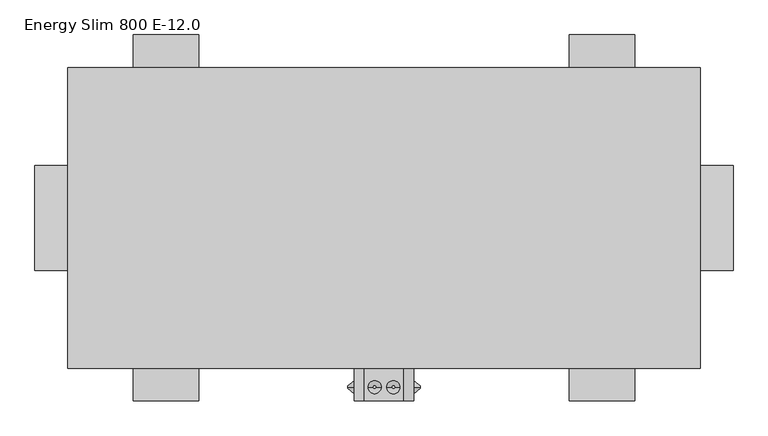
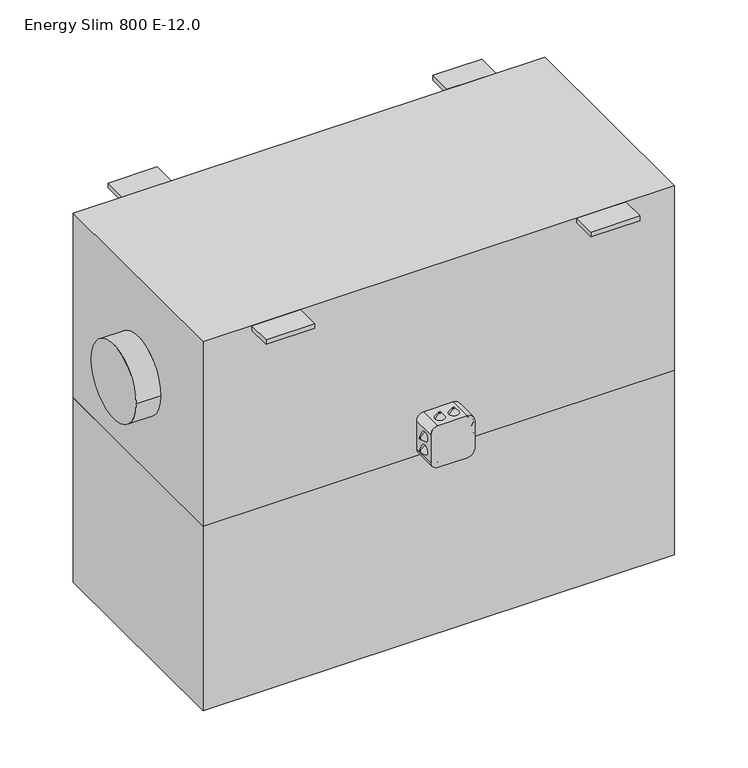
"""IFC4 building model written with IfcOpenShell, lengths in millimetres: proxy geometry, ADSK_КПВУ_ENERGY SLIM E_круглая : Energy Slim 800 E-12.0."""

from ifc_helpers import new_model, si_unit, point, frame, frame_2d, origin, place, context, project, spatial, polyline, circle_curve, trimmed, segment, composite_curve, outline, extrude, source, transform, mapped, element, save
from ifc_brep_helpers import plane_surface, cylinder_surface, revolved_surface, advanced_brep


def energy_slim_800_e_12_0_e377578b(model_context):
    return source(origin(), model_context, "Body", "SolidModel", [
        advanced_brep(
        [(211.0, -258.4311792, -171.2092609), (211.0, -258.4311792, -167.2092609), (221.0, -258.4311792, -179.2092609), (221.0, -258.4311792, -159.2092609)],
        [
            (0, 1, circle_curve(frame((211.0, -258.4311792, -169.2092609), z_axis=(-1.0, 0.0, 0.0), x_axis=(0.0, 0.0, -1.0)), 2.0)),
            (1, 0, circle_curve(frame((211.0, -258.4311792, -169.2092609), z_axis=(-1.0, 0.0, 0.0), x_axis=(0.0, 0.0, 1.0)), 2.0)),
            (2, 3, circle_curve(frame((221.0, -258.4311792, -169.2092609), z_axis=(1.0, 0.0, 0.0), x_axis=(0.0, 0.0, 1.0)), 10.0)),
            (3, 2, circle_curve(frame((221.0, -258.4311792, -169.2092609), z_axis=(1.0, 0.0, 0.0), x_axis=(0.0, 0.0, -1.0)), 10.0)),
            (2, 0),
            (1, 3),
        ],
        [
            plane_surface(frame((211.0, -258.4311792, -169.2092609), z_axis=(-1.0, 0.0, 0.0), x_axis=(0.0, -1.0, 0.0))),
            plane_surface(frame((221.0, -258.4311792, -169.2092609), z_axis=(1.0, 0.0, 0.0), x_axis=(0.0, -1.0, 0.0))),
            revolved_surface(polyline([(211.0, -258.4311792, -167.2092609), (221.0, -258.4311792, -159.2092609)]), (208.5, -258.4311792, -169.2092609), (1.0, 0.0, 0.0)),
            revolved_surface(polyline([(211.0, -258.4311792, -171.2092609), (221.0, -258.4311792, -179.2092609)]), (208.5, -258.4311792, -169.2092609), (1.0, 0.0, 0.0)),
        ],
        [
            (0, [[1, 2]]),
            (1, [[3, 4]]),
            (2, [[-3, 5, -2, 6]]),
            (3, [[-4, -6, -1, -5]]),
        ],
    ),
        advanced_brep(
        [(211.0, -258.4311792, -138.5531164), (211.0, -258.4311792, -142.5531164), (221.0, -258.4311792, -130.5531164), (221.0, -258.4311792, -150.5531164)],
        [
            (0, 1, circle_curve(frame((211.0, -258.4311792, -140.5531164), z_axis=(-1.0, 0.0, 0.0), x_axis=(0.0, 0.0, 1.0)), 2.0)),
            (1, 0, circle_curve(frame((211.0, -258.4311792, -140.5531164), z_axis=(-1.0, 0.0, 0.0), x_axis=(0.0, 0.0, -1.0)), 2.0)),
            (2, 3, circle_curve(frame((221.0, -258.4311792, -140.5531164), z_axis=(1.0, 0.0, 0.0), x_axis=(0.0, 0.0, -1.0)), 10.0)),
            (3, 2, circle_curve(frame((221.0, -258.4311792, -140.5531164), z_axis=(1.0, 0.0, 0.0), x_axis=(0.0, 0.0, 1.0)), 10.0)),
            (3, 1),
            (0, 2),
        ],
        [
            plane_surface(frame((211.0, -258.4311792, -140.5531164), z_axis=(-1.0, 0.0, 0.0), x_axis=(0.0, 1.0, 0.0))),
            plane_surface(frame((221.0, -258.4311792, -140.5531164), z_axis=(1.0, 0.0, 0.0), x_axis=(0.0, 1.0, 0.0))),
            revolved_surface(polyline([(211.0, -258.4311792, -138.5531164), (221.0, -258.4311792, -130.5531164)]), (208.5, -258.4311792, -140.5531164), (1.0, 0.0, 0.0)),
            revolved_surface(polyline([(211.0, -258.4311792, -142.5531164), (221.0, -258.4311792, -150.5531164)]), (208.5, -258.4311792, -140.5531164), (1.0, 0.0, 0.0)),
        ],
        [
            (0, [[1, 2]]),
            (1, [[3, 4]]),
            (2, [[-4, 5, -1, 6]]),
            (3, [[-3, -6, -2, -5]]),
        ],
    ),
        advanced_brep(
        [(321.0, -258.4311792, -171.2092609), (321.0, -258.4311792, -167.2092609), (311.0, -258.4311792, -179.2092609), (311.0, -258.4311792, -159.2092609)],
        [
            (0, 1, circle_curve(frame((321.0, -258.4311792, -169.2092609), z_axis=(1.0, 0.0, 0.0), x_axis=(0.0, 0.0, -1.0)), 2.0)),
            (1, 0, circle_curve(frame((321.0, -258.4311792, -169.2092609), z_axis=(1.0, 0.0, 0.0), x_axis=(0.0, 0.0, 1.0)), 2.0)),
            (2, 3, circle_curve(frame((311.0, -258.4311792, -169.2092609), z_axis=(-1.0, 0.0, 0.0), x_axis=(0.0, 0.0, 1.0)), 10.0)),
            (3, 2, circle_curve(frame((311.0, -258.4311792, -169.2092609), z_axis=(-1.0, 0.0, 0.0), x_axis=(0.0, 0.0, -1.0)), 10.0)),
            (3, 1),
            (0, 2),
        ],
        [
            plane_surface(frame((321.0, -258.4311792, -169.2092609), z_axis=(1.0, 0.0, 0.0), x_axis=(0.0, 1.0, 0.0))),
            plane_surface(frame((311.0, -258.4311792, -169.2092609), z_axis=(-1.0, 0.0, 0.0), x_axis=(0.0, 1.0, 0.0))),
            revolved_surface(polyline([(321.0, -258.4311792, -171.2092609), (311.0, -258.4311792, -179.2092609)]), (323.5, -258.4311792, -169.2092609), (-1.0, 0.0, 0.0)),
            revolved_surface(polyline([(321.0, -258.4311792, -167.2092609), (311.0, -258.4311792, -159.2092609)]), (323.5, -258.4311792, -169.2092609), (-1.0, 0.0, 0.0)),
        ],
        [
            (0, [[1, 2]]),
            (1, [[3, 4]]),
            (2, [[-4, 5, -1, 6]]),
            (3, [[-3, -6, -2, -5]]),
        ],
    ),
        advanced_brep(
        [(321.0, -258.4311792, -138.5531164), (321.0, -258.4311792, -142.5531164), (311.0, -258.4311792, -130.5531164), (311.0, -258.4311792, -150.5531164)],
        [
            (0, 1, circle_curve(frame((321.0, -258.4311792, -140.5531164), z_axis=(1.0, 0.0, 0.0), x_axis=(0.0, 0.0, 1.0)), 2.0)),
            (1, 0, circle_curve(frame((321.0, -258.4311792, -140.5531164), z_axis=(1.0, 0.0, 0.0), x_axis=(0.0, 0.0, -1.0)), 2.0)),
            (2, 3, circle_curve(frame((311.0, -258.4311792, -140.5531164), z_axis=(-1.0, 0.0, 0.0), x_axis=(0.0, 0.0, -1.0)), 10.0)),
            (3, 2, circle_curve(frame((311.0, -258.4311792, -140.5531164), z_axis=(-1.0, 0.0, 0.0), x_axis=(0.0, 0.0, 1.0)), 10.0)),
            (2, 0),
            (1, 3),
        ],
        [
            plane_surface(frame((321.0, -258.4311792, -140.5531164), z_axis=(1.0, 0.0, 0.0), x_axis=(0.0, -1.0, 0.0))),
            plane_surface(frame((311.0, -258.4311792, -140.5531164), z_axis=(-1.0, 0.0, 0.0), x_axis=(0.0, -1.0, 0.0))),
            revolved_surface(polyline([(321.0, -258.4311792, -142.5531164), (311.0, -258.4311792, -150.5531164)]), (323.5, -258.4311792, -140.5531164), (-1.0, 0.0, 0.0)),
            revolved_surface(polyline([(321.0, -258.4311792, -138.5531164), (311.0, -258.4311792, -130.5531164)]), (323.5, -258.4311792, -140.5531164), (-1.0, 0.0, 0.0)),
        ],
        [
            (0, [[1, 2]]),
            (1, [[3, 4]]),
            (2, [[-3, 5, -2, 6]]),
            (3, [[-4, -6, -1, -5]]),
        ],
    ),
        advanced_brep(
        [(249.6719278, -258.4311792, -209.5), (253.6719278, -258.4311792, -209.5), (241.6719278, -258.4311792, -199.5), (261.6719278, -258.4311792, -199.5)],
        [
            (0, 1, circle_curve(frame((251.6719278, -258.4311792, -209.5), z_axis=(0.0, 0.0, -1.0), x_axis=(-1.0, 0.0, 0.0)), 2.0)),
            (1, 0, circle_curve(frame((251.6719278, -258.4311792, -209.5), z_axis=(0.0, 0.0, -1.0), x_axis=(1.0, 0.0, 0.0)), 2.0)),
            (2, 3, circle_curve(frame((251.6719278, -258.4311792, -199.5), z_axis=(0.0, 0.0, 1.0), x_axis=(1.0, 0.0, 0.0)), 10.0)),
            (3, 2, circle_curve(frame((251.6719278, -258.4311792, -199.5), z_axis=(0.0, 0.0, 1.0), x_axis=(-1.0, 0.0, 0.0)), 10.0)),
            (3, 1),
            (0, 2),
        ],
        [
            plane_surface(frame((251.6719278, -258.4311792, -209.5), z_axis=(0.0, 0.0, -1.0), x_axis=(0.0, 1.0, 0.0))),
            plane_surface(frame((251.6719278, -258.4311792, -199.5), z_axis=(0.0, 0.0, 1.0), x_axis=(0.0, 1.0, 0.0))),
            revolved_surface(polyline([(249.6719278, -258.4311792, -209.5), (241.6719278, -258.4311792, -199.5)]), (251.6719278, -258.4311792, -212.0), (0.0, 0.0, 1.0)),
            revolved_surface(polyline([(253.6719278, -258.4311792, -209.5), (261.6719278, -258.4311792, -199.5)]), (251.6719278, -258.4311792, -212.0), (0.0, 0.0, 1.0)),
        ],
        [
            (0, [[1, 2]]),
            (1, [[3, 4]]),
            (2, [[-4, 5, -1, 6]]),
            (3, [[-3, -6, -2, -5]]),
        ],
    ),
        advanced_brep(
        [(282.3280722, -258.4311792, -209.5), (278.3280722, -258.4311792, -209.5), (290.3280722, -258.4311792, -199.5), (270.3280722, -258.4311792, -199.5)],
        [
            (0, 1, circle_curve(frame((280.3280722, -258.4311792, -209.5), z_axis=(0.0, 0.0, -1.0), x_axis=(1.0, 0.0, 0.0)), 2.0)),
            (1, 0, circle_curve(frame((280.3280722, -258.4311792, -209.5), z_axis=(0.0, 0.0, -1.0), x_axis=(-1.0, 0.0, 0.0)), 2.0)),
            (2, 3, circle_curve(frame((280.3280722, -258.4311792, -199.5), z_axis=(0.0, 0.0, 1.0), x_axis=(-1.0, 0.0, 0.0)), 10.0)),
            (3, 2, circle_curve(frame((280.3280722, -258.4311792, -199.5), z_axis=(0.0, 0.0, 1.0), x_axis=(1.0, 0.0, 0.0)), 10.0)),
            (2, 0),
            (1, 3),
        ],
        [
            plane_surface(frame((280.3280722, -258.4311792, -209.5), z_axis=(0.0, 0.0, -1.0), x_axis=(0.0, -1.0, 0.0))),
            plane_surface(frame((280.3280722, -258.4311792, -199.5), z_axis=(0.0, 0.0, 1.0), x_axis=(0.0, -1.0, 0.0))),
            revolved_surface(polyline([(278.3280722, -258.4311792, -209.5), (270.3280722, -258.4311792, -199.5)]), (280.3280722, -258.4311792, -212.0), (0.0, 0.0, 1.0)),
            revolved_surface(polyline([(282.3280722, -258.4311792, -209.5), (290.3280722, -258.4311792, -199.5)]), (280.3280722, -258.4311792, -212.0), (0.0, 0.0, 1.0)),
        ],
        [
            (0, [[1, 2]]),
            (1, [[3, 4]]),
            (2, [[-3, 5, -2, 6]]),
            (3, [[-4, -6, -1, -5]]),
        ],
    ),
        advanced_brep(
        [(249.6719278, -258.4311792, -99.5), (253.6719278, -258.4311792, -99.5), (241.6719278, -258.4311792, -109.5), (261.6719278, -258.4311792, -109.5)],
        [
            (0, 1, circle_curve(frame((251.6719278, -258.4311792, -99.5), z_axis=(0.0, 0.0, 1.0), x_axis=(-1.0, 0.0, 0.0)), 2.0)),
            (1, 0, circle_curve(frame((251.6719278, -258.4311792, -99.5), z_axis=(0.0, 0.0, 1.0), x_axis=(1.0, 0.0, 0.0)), 2.0)),
            (2, 3, circle_curve(frame((251.6719278, -258.4311792, -109.5), z_axis=(0.0, 0.0, -1.0), x_axis=(1.0, 0.0, 0.0)), 10.0)),
            (3, 2, circle_curve(frame((251.6719278, -258.4311792, -109.5), z_axis=(0.0, 0.0, -1.0), x_axis=(-1.0, 0.0, 0.0)), 10.0)),
            (2, 0),
            (1, 3),
        ],
        [
            plane_surface(frame((251.6719278, -258.4311792, -99.5), z_axis=(0.0, 0.0, 1.0), x_axis=(0.0, -1.0, 0.0))),
            plane_surface(frame((251.6719278, -258.4311792, -109.5), z_axis=(0.0, 0.0, -1.0), x_axis=(0.0, -1.0, 0.0))),
            revolved_surface(polyline([(253.6719278, -258.4311792, -99.5), (261.6719278, -258.4311792, -109.5)]), (251.6719278, -258.4311792, -97.0), (0.0, 0.0, -1.0)),
            revolved_surface(polyline([(249.6719278, -258.4311792, -99.5), (241.6719278, -258.4311792, -109.5)]), (251.6719278, -258.4311792, -97.0), (0.0, 0.0, -1.0)),
        ],
        [
            (0, [[1, 2]]),
            (1, [[3, 4]]),
            (2, [[-3, 5, -2, 6]]),
            (3, [[-4, -6, -1, -5]]),
        ],
    ),
        advanced_brep(
        [(282.3280722, -258.4311792, -99.5), (278.3280722, -258.4311792, -99.5), (290.3280722, -258.4311792, -109.5), (270.3280722, -258.4311792, -109.5)],
        [
            (0, 1, circle_curve(frame((280.3280722, -258.4311792, -99.5), z_axis=(0.0, 0.0, 1.0), x_axis=(1.0, 0.0, 0.0)), 2.0)),
            (1, 0, circle_curve(frame((280.3280722, -258.4311792, -99.5), z_axis=(0.0, 0.0, 1.0), x_axis=(-1.0, 0.0, 0.0)), 2.0)),
            (2, 3, circle_curve(frame((280.3280722, -258.4311792, -109.5), z_axis=(0.0, 0.0, -1.0), x_axis=(-1.0, 0.0, 0.0)), 10.0)),
            (3, 2, circle_curve(frame((280.3280722, -258.4311792, -109.5), z_axis=(0.0, 0.0, -1.0), x_axis=(1.0, 0.0, 0.0)), 10.0)),
            (3, 1),
            (0, 2),
        ],
        [
            plane_surface(frame((280.3280722, -258.4311792, -99.5), z_axis=(0.0, 0.0, 1.0), x_axis=(0.0, 1.0, 0.0))),
            plane_surface(frame((280.3280722, -258.4311792, -109.5), z_axis=(0.0, 0.0, -1.0), x_axis=(0.0, 1.0, 0.0))),
            revolved_surface(polyline([(282.3280722, -258.4311792, -99.5), (290.3280722, -258.4311792, -109.5)]), (280.3280722, -258.4311792, -97.0), (0.0, 0.0, -1.0)),
            revolved_surface(polyline([(278.3280722, -258.4311792, -99.5), (270.3280722, -258.4311792, -109.5)]), (280.3280722, -258.4311792, -97.0), (0.0, 0.0, -1.0)),
        ],
        [
            (0, [[1, 2]]),
            (1, [[3, 4]]),
            (2, [[-4, 5, -1, 6]]),
            (3, [[-3, -6, -2, -5]]),
        ],
    ),
        extrude(outline(composite_curve([segment(polyline([(-199.5, 236.0), (-199.5, 296.0)]), True, "CONTINUOUS"), segment(trimmed(circle_curve(frame_2d((-184.5, 296.0)), 15.0), [point((-199.5, 296.0))], [point((-184.5, 311.0))], False, "CARTESIAN"), True, "CONTINUOUS"), segment(polyline([(-184.5, 311.0), (-124.5, 311.0)]), True, "CONTINUOUS"), segment(trimmed(circle_curve(frame_2d((-124.5, 296.0)), 15.0), [point((-124.5, 311.0))], [point((-109.5, 296.0))], False, "CARTESIAN"), True, "CONTINUOUS"), segment(polyline([(-109.5, 296.0), (-109.5, 236.0)]), True, "CONTINUOUS"), segment(trimmed(circle_curve(frame_2d((-124.5, 236.0)), 15.0), [point((-109.5, 236.0))], [point((-124.5, 221.0))], False, "CARTESIAN"), True, "CONTINUOUS"), segment(polyline([(-124.5, 221.0), (-184.5, 221.0)]), True, "CONTINUOUS"), segment(trimmed(circle_curve(frame_2d((-184.5, 236.0)), 15.0), [point((-184.5, 221.0))], [point((-199.5, 236.0))], False, "CARTESIAN"), True, "CONTINUOUS")], self_intersect=False)), frame((0.0, -279.5, 0.0), z_axis=(0.0, 1.0, 0.0), x_axis=(0.0, 0.0, 1.0)), (0.0, 0.0, 1.0), 50.0),
        advanced_brep(
        [(748.5, -229.5, 199.5), (748.5, -229.5, -199.5), (748.5, 229.5, -199.5), (748.5, 229.5, 199.5), (748.5, 80.0, -7.5), (748.5, -80.0, -7.5), (-216.5, -229.5, 199.5), (-216.5, 229.5, 199.5), (-216.5, 229.5, -199.5), (-216.5, -229.5, -199.5), (-216.5, 80.0, -7.5), (-216.5, -80.0, -7.5), (-266.5, -80.0, -7.5), (-266.5, 80.0, -7.5), (798.5, -80.0, -7.5), (798.5, 80.0, -7.5)],
        [
            (0, 1),
            (1, 2),
            (2, 3),
            (3, 0),
            (4, 5, circle_curve(frame((748.5, 0.0, -7.5), z_axis=(-1.0, 0.0, 0.0), x_axis=(0.0, 1.0, 0.0)), 80.0)),
            (5, 4, circle_curve(frame((748.5, 0.0, -7.5), z_axis=(-1.0, 0.0, 0.0), x_axis=(0.0, 1.0, 0.0)), 80.0)),
            (6, 7),
            (7, 8),
            (8, 9),
            (9, 6),
            (10, 11, circle_curve(frame((-216.5, 0.0, -7.5), z_axis=(1.0, 0.0, 0.0), x_axis=(0.0, 1.0, 0.0)), 80.0)),
            (11, 10, circle_curve(frame((-216.5, 0.0, -7.5), z_axis=(1.0, 0.0, 0.0), x_axis=(0.0, 1.0, 0.0)), 80.0)),
            (12, 13, circle_curve(frame((-266.5, 0.0, -7.5), z_axis=(-1.0, 0.0, 0.0), x_axis=(0.0, 1.0, 0.0)), 80.0)),
            (13, 12, circle_curve(frame((-266.5, 0.0, -7.5), z_axis=(-1.0, 0.0, 0.0), x_axis=(0.0, 1.0, 0.0)), 80.0)),
            (0, 6),
            (9, 1),
            (8, 2),
            (7, 3),
            (12, 11),
            (10, 13),
            (14, 15, circle_curve(frame((798.5, 0.0, -7.5), z_axis=(1.0, 0.0, 0.0), x_axis=(0.0, 1.0, 0.0)), 80.0)),
            (15, 14, circle_curve(frame((798.5, 0.0, -7.5), z_axis=(1.0, 0.0, 0.0), x_axis=(0.0, 1.0, 0.0)), 80.0)),
            (14, 5),
            (4, 15),
        ],
        [
            plane_surface(frame((748.5, -229.5, 199.5), z_axis=(1.0, 0.0, 0.0), x_axis=(0.0, 0.0, -1.0))),
            plane_surface(frame((-216.5, -229.5, 199.5), z_axis=(-1.0, 0.0, 0.0), x_axis=(0.0, 0.0, 1.0))),
            plane_surface(frame((-266.5, 80.0, -7.5), z_axis=(-1.0, 0.0, 0.0), x_axis=(0.0, 0.0, -1.0))),
            plane_surface(frame((748.5, -229.5, 199.5), z_axis=(0.0, -1.0, 0.0), x_axis=(-1.0, 0.0, 0.0))),
            plane_surface(frame((748.5, -229.5, -199.5), z_axis=(0.0, 0.0, -1.0), x_axis=(-1.0, 0.0, 0.0))),
            plane_surface(frame((748.5, 229.5, -199.5), z_axis=(0.0, 1.0, 0.0), x_axis=(-1.0, 0.0, 0.0))),
            plane_surface(frame((748.5, 229.5, 199.5), z_axis=(0.0, 0.0, 1.0), x_axis=(-1.0, 0.0, 0.0))),
            cylinder_surface(frame((-266.5, 0.0, -7.5), z_axis=(1.0, 0.0, 0.0), x_axis=(0.0, 1.0, 0.0)), 80.0),
            plane_surface(frame((798.5, 80.0, -7.5), z_axis=(1.0, 0.0, 0.0), x_axis=(0.0, 0.0, 1.0))),
            cylinder_surface(frame((748.5, 0.0, -7.5), z_axis=(1.0, 0.0, 0.0), x_axis=(0.0, 1.0, 0.0)), 80.0),
        ],
        [
            (0, [[1, 2, 3, 4], [5, 6]]),
            (1, [[7, 8, 9, 10], [11, 12]]),
            (2, [[13, 14]]),
            (3, [[-1, 15, -10, 16]]),
            (4, [[-2, -16, -9, 17]]),
            (5, [[-3, -17, -8, 18]]),
            (6, [[-4, -18, -7, -15]]),
            (7, [[-13, 19, -11, 20]]),
            (7, [[-14, -20, -12, -19]]),
            (8, [[21, 22]]),
            (9, [[-21, 23, -5, 24]]),
            (9, [[-22, -24, -6, -23]]),
        ],
    ),
        extrude(outline(polyline([(-16.5, 279.5), (-16.5, 229.5), (-116.5, 229.5), (-116.5, 279.5), (-16.5, 279.5)])), frame((0.0, 0.0, 189.5), z_axis=(0.0, 0.0, 1.0), x_axis=(1.0, 0.0, 0.0)), (0.0, 0.0, 1.0), 10.0),
        extrude(outline(polyline([(548.5, 279.5), (648.5, 279.5), (648.5, 229.5), (548.5, 229.5), (548.5, 279.5)])), frame((0.0, 0.0, 189.5), z_axis=(0.0, 0.0, 1.0), x_axis=(1.0, 0.0, 0.0)), (0.0, 0.0, 1.0), 10.0),
        extrude(outline(polyline([(-16.5, -279.5), (-116.5, -279.5), (-116.5, -229.5), (-16.5, -229.5), (-16.5, -279.5)])), frame((0.0, 0.0, 189.5), z_axis=(0.0, 0.0, 1.0), x_axis=(1.0, 0.0, 0.0)), (0.0, 0.0, 1.0), 10.0),
        extrude(outline(polyline([(548.5, -279.5), (548.5, -229.5), (648.5, -229.5), (648.5, -279.5), (548.5, -279.5)])), frame((0.0, 0.0, 189.5), z_axis=(0.0, 0.0, 1.0), x_axis=(1.0, 0.0, 0.0)), (0.0, 0.0, 1.0), 10.0),
        extrude(outline(polyline([(748.5, 229.5), (748.5, -229.5), (-216.5, -229.5), (-216.5, 229.5), (748.5, 229.5)])), frame((0.0, 0.0, -598.5), z_axis=(0.0, 0.0, 1.0), x_axis=(1.0, 0.0, 0.0)), (0.0, 0.0, 1.0), 399.0),
    ])


if __name__ == "__main__":
    model = new_model("IFC4")
    model_context = context("Model", 3, world=origin())
    ifc_project = project(units=[si_unit("LENGTHUNIT", "METRE", prefix="MILLI")], contexts=[model_context])
    site = spatial("IfcSite", under=ifc_project)
    building = spatial("IfcBuilding", under=site)
    placement = place(None, origin())
    energy_slim_800_e_12_0_shape = energy_slim_800_e_12_0_e377578b(model_context)
    element("IfcBuildingElementProxy", 1, Name="ADSK_КПВУ_ENERGY SLIM E_круглая : Energy Slim 800 E-12.0", ObjectType="ADSK_КПВУ_ENERGY SLIM E_круглая : Energy Slim 800 E-12.0", at=placement, inside=building, context=model_context, shape_type="MappedRepresentation", body=[
        mapped(energy_slim_800_e_12_0_shape, transform((0.0, 0.0, 0.0), x_axis=(1.0, 0.0, 0.0), y_axis=(0.0, 1.0, 0.0), z_axis=(0.0, 0.0, 1.0))),
    ])
    save(model, "model.ifc")
